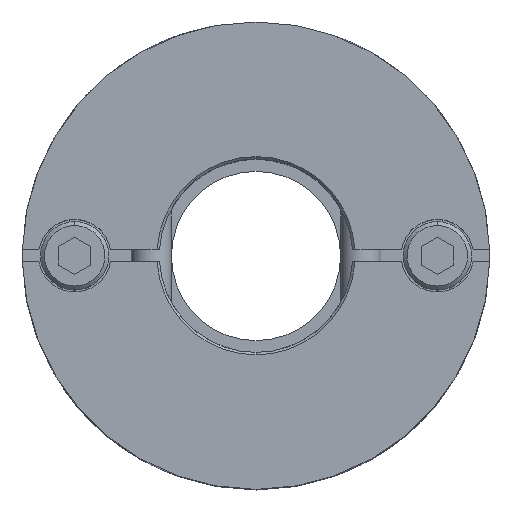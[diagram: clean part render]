
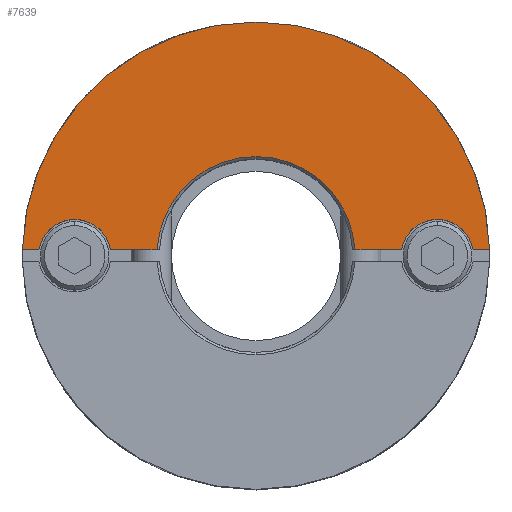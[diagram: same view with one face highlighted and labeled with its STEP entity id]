
A CAD part, top view. The second image highlights one B-rep face of the part: STEP entity #7639.
In plain terms, the highlighted planar face has unit normal (0, 0, 1).
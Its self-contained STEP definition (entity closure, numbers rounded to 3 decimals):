
#605=CARTESIAN_POINT('',(0.,29.,22.4));
#606=VERTEX_POINT('',#605);
#690=CARTESIAN_POINT('',(-28.99,0.75,22.4));
#691=VERTEX_POINT('',#690);
#698=CARTESIAN_POINT('',(0.0,0.,22.4));
#699=DIRECTION('',(0.0,0.0,-1.0));
#700=DIRECTION('',(0.0,1.0,0.0));
#701=AXIS2_PLACEMENT_3D('',#698,#699,#700);
#702=CIRCLE('',#701,29.0);
#703=EDGE_CURVE('',#691,#606,#702,.T.);
#915=CARTESIAN_POINT('',(0.,12.3,22.4));
#916=VERTEX_POINT('',#915);
#925=CARTESIAN_POINT('',(-12.277,0.75,22.4));
#926=VERTEX_POINT('',#925);
#927=CARTESIAN_POINT('',(0.0,0.,22.4));
#928=DIRECTION('',(0.0,0.0,1.0));
#929=DIRECTION('',(0.0,-1.0,0.0));
#930=AXIS2_PLACEMENT_3D('',#927,#928,#929);
#931=CIRCLE('',#930,12.3);
#932=EDGE_CURVE('',#916,#926,#931,.T.);
#1013=CARTESIAN_POINT('',(-22.5,4.5,22.4));
#1014=VERTEX_POINT('',#1013);
#1023=CARTESIAN_POINT('',(-26.937,0.75,22.4));
#1024=VERTEX_POINT('',#1023);
#1025=CARTESIAN_POINT('',(-22.5,0.,22.4));
#1026=DIRECTION('',(0.0,0.0,-1.0));
#1027=DIRECTION('',(0.0,1.0,0.0));
#1028=AXIS2_PLACEMENT_3D('',#1025,#1026,#1027);
#1029=CIRCLE('',#1028,4.5);
#1030=EDGE_CURVE('',#1024,#1014,#1029,.T.);
#1097=CARTESIAN_POINT('',(22.5,4.5,22.4));
#1098=VERTEX_POINT('',#1097);
#1107=CARTESIAN_POINT('',(18.063,0.75,22.4));
#1108=VERTEX_POINT('',#1107);
#1109=CARTESIAN_POINT('',(22.5,0.,22.4));
#1110=DIRECTION('',(0.0,0.0,-1.0));
#1111=DIRECTION('',(0.0,1.0,0.0));
#1112=AXIS2_PLACEMENT_3D('',#1109,#1110,#1111);
#1113=CIRCLE('',#1112,4.5);
#1114=EDGE_CURVE('',#1108,#1098,#1113,.T.);
#6308=CARTESIAN_POINT('',(12.277,0.75,22.4));
#6309=VERTEX_POINT('',#6308);
#6310=CARTESIAN_POINT('',(12.277,0.75,22.4));
#6311=DIRECTION('',(1.0,0.0,0.0));
#6312=VECTOR('',#6311,5.786);
#6313=LINE('',#6310,#6312);
#6314=EDGE_CURVE('',#6309,#1108,#6313,.T.);
#6683=CARTESIAN_POINT('',(-18.063,0.75,22.4));
#6684=VERTEX_POINT('',#6683);
#6685=CARTESIAN_POINT('',(-18.063,0.75,22.4));
#6686=DIRECTION('',(1.0,0.0,0.0));
#6687=VECTOR('',#6686,5.786);
#6688=LINE('',#6685,#6687);
#6689=EDGE_CURVE('',#6684,#926,#6688,.T.);
#7446=CARTESIAN_POINT('',(26.937,0.75,22.4));
#7447=VERTEX_POINT('',#7446);
#7454=CARTESIAN_POINT('',(22.5,0.,22.4));
#7455=DIRECTION('',(0.0,0.0,-1.0));
#7456=DIRECTION('',(0.0,1.0,0.0));
#7457=AXIS2_PLACEMENT_3D('',#7454,#7455,#7456);
#7458=CIRCLE('',#7457,4.5);
#7459=EDGE_CURVE('',#1098,#7447,#7458,.T.);
#7502=CARTESIAN_POINT('',(-22.5,0.,22.4));
#7503=DIRECTION('',(0.0,0.0,-1.0));
#7504=DIRECTION('',(0.0,1.0,0.0));
#7505=AXIS2_PLACEMENT_3D('',#7502,#7503,#7504);
#7506=CIRCLE('',#7505,4.5);
#7507=EDGE_CURVE('',#1014,#6684,#7506,.T.);
#7526=CARTESIAN_POINT('',(28.99,0.75,22.4));
#7527=VERTEX_POINT('',#7526);
#7534=CARTESIAN_POINT('',(26.937,0.75,22.4));
#7535=DIRECTION('',(1.0,0.0,0.0));
#7536=VECTOR('',#7535,2.053);
#7537=LINE('',#7534,#7536);
#7538=EDGE_CURVE('',#7447,#7527,#7537,.T.);
#7603=CARTESIAN_POINT('',(0.,2.636,22.4));
#7604=DIRECTION('',(0.0,0.0,1.0));
#7605=DIRECTION('',(0.0,1.0,0.0));
#7606=AXIS2_PLACEMENT_3D('',#7603,#7604,#7605);
#7607=PLANE('',#7606);
#7608=ORIENTED_EDGE('',*,*,#1114,.T.);
#7609=ORIENTED_EDGE('',*,*,#7459,.T.);
#7610=ORIENTED_EDGE('',*,*,#7538,.T.);
#7611=CARTESIAN_POINT('',(0.0,0.,22.4));
#7612=DIRECTION('',(0.0,0.0,-1.0));
#7613=DIRECTION('',(0.0,1.0,0.0));
#7614=AXIS2_PLACEMENT_3D('',#7611,#7612,#7613);
#7615=CIRCLE('',#7614,29.0);
#7616=EDGE_CURVE('',#606,#7527,#7615,.T.);
#7617=ORIENTED_EDGE('',*,*,#7616,.F.);
#7618=ORIENTED_EDGE('',*,*,#703,.F.);
#7619=CARTESIAN_POINT('',(-28.99,0.75,22.4));
#7620=DIRECTION('',(1.0,0.0,0.0));
#7621=VECTOR('',#7620,2.053);
#7622=LINE('',#7619,#7621);
#7623=EDGE_CURVE('',#691,#1024,#7622,.T.);
#7624=ORIENTED_EDGE('',*,*,#7623,.T.);
#7625=ORIENTED_EDGE('',*,*,#1030,.T.);
#7626=ORIENTED_EDGE('',*,*,#7507,.T.);
#7627=ORIENTED_EDGE('',*,*,#6689,.T.);
#7628=ORIENTED_EDGE('',*,*,#932,.F.);
#7629=CARTESIAN_POINT('',(0.0,0.,22.4));
#7630=DIRECTION('',(0.0,0.0,1.0));
#7631=DIRECTION('',(0.0,-1.0,0.0));
#7632=AXIS2_PLACEMENT_3D('',#7629,#7630,#7631);
#7633=CIRCLE('',#7632,12.3);
#7634=EDGE_CURVE('',#6309,#916,#7633,.T.);
#7635=ORIENTED_EDGE('',*,*,#7634,.F.);
#7636=ORIENTED_EDGE('',*,*,#6314,.T.);
#7637=EDGE_LOOP('',(#7608,#7609,#7610,#7617,#7618,#7624,#7625,#7626,#7627,#7628,#7635,#7636));
#7638=FACE_OUTER_BOUND('',#7637,.T.);
#7639=ADVANCED_FACE('',(#7638),#7607,.T.);
